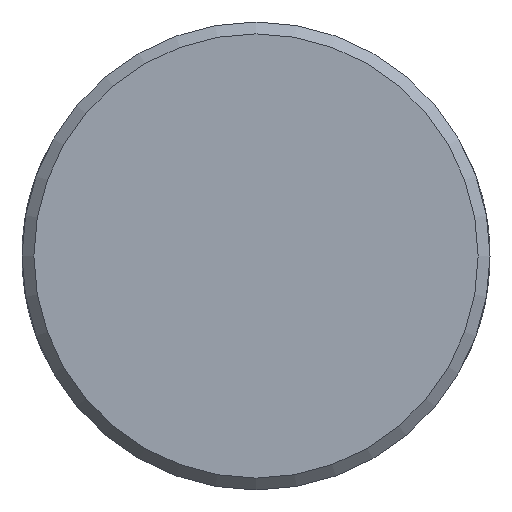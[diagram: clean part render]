
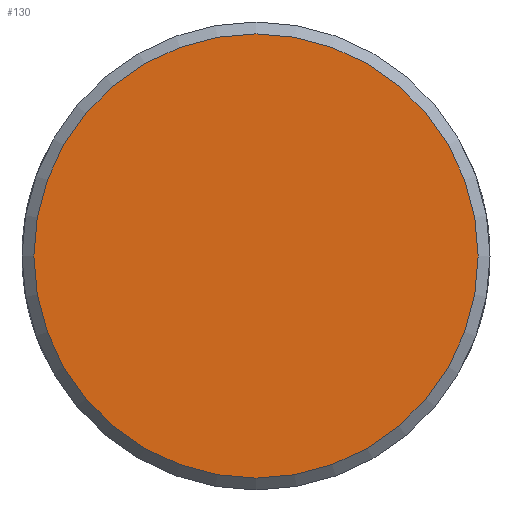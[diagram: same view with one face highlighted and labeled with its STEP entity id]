
A CAD part, left-side view. The second image highlights one B-rep face of the part: STEP entity #130.
In plain terms, the highlighted planar face has unit normal (-1, 0, 0).
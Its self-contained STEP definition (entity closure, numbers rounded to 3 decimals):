
#130=ADVANCED_FACE('',(#222),#224,.T.);
#222=FACE_BOUND('',#223,.T.);
#223=EDGE_LOOP('',(#3464));
#224=PLANE('',#225);
#225=AXIS2_PLACEMENT_3D('',#226,#227,#228);
#226=CARTESIAN_POINT('',(-36.25,0.,0.));
#227=DIRECTION('',(-1.,0.,0.));
#228=DIRECTION('',(0.,1.,0.));
#3464=ORIENTED_EDGE('',*,*,#3494,.F.);
#3494=EDGE_CURVE('',#3517,#3517,#3518,.T.);
#3517=VERTEX_POINT('',#3912);
#3518=CIRCLE('',#3913,9.35);
#3912=CARTESIAN_POINT('',(-36.25,9.35,0.));
#3913=AXIS2_PLACEMENT_3D('',#3914,#3915,#3916);
#3914=CARTESIAN_POINT('',(-36.25,0.,0.));
#3915=DIRECTION('',(1.,0.,0.));
#3916=DIRECTION('',(0.,1.,0.));
